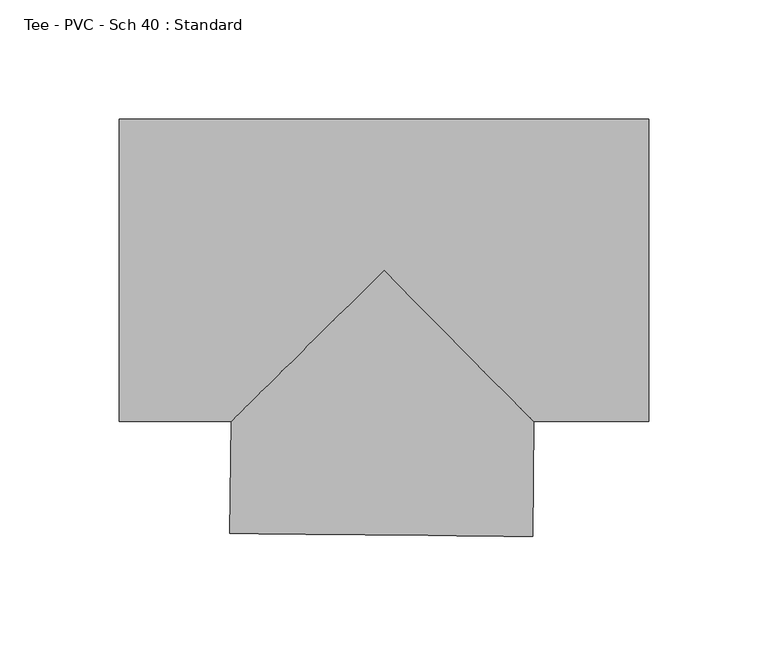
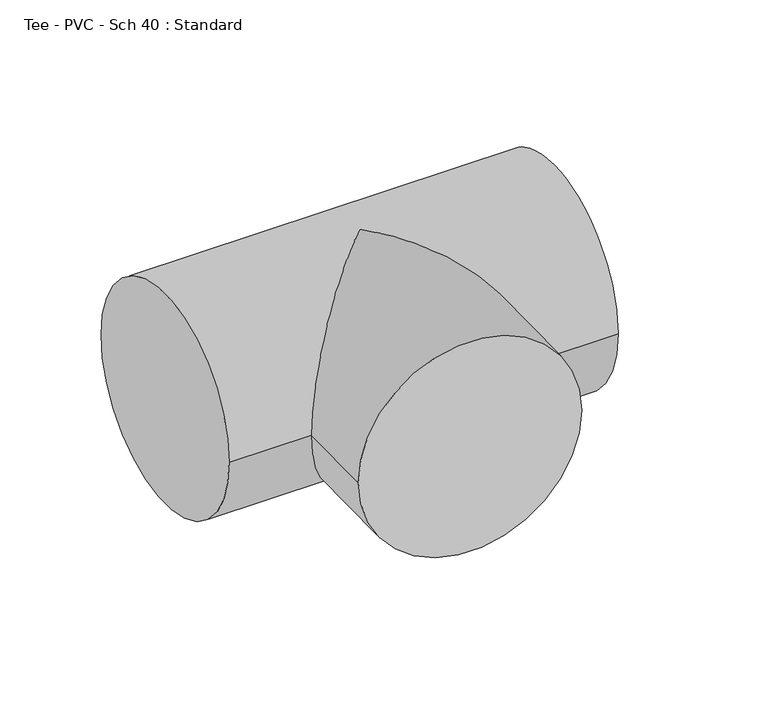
"""IFC4 building model written with IfcOpenShell, lengths in millimetres: pipe fitting geometry, Tee - PVC - Sch 40 : Standard."""

from ifc_helpers import new_model, si_unit, frame, origin, place, context, project, spatial, circle_curve, ellipse_curve, source, transform, mapped, element, save
from ifc_brep_helpers import plane_surface, cylinder_surface, advanced_brep


def tee_pvc_sch_40_standard_9cddf13a(model_context):
    return source(origin(), model_context, "Body", "AdvancedBrep", [
        advanced_brep(
        [(-111.125, -63.5, 0.0), (-111.125, 63.5, 0.0), (111.125, -63.5, 0.0), (111.125, 63.5, 0.0), (-64.1649033, -63.5, 0.0), (0.0, 0.0, 63.5), (62.8419867, -63.5, 0.0), (0.0, 0.0, -63.5), (-64.6540445, -110.4575491, 0.0), (62.3390659, -111.780394, 0.0)],
        [
            (0, 1, circle_curve(frame((-111.125, 0.0, 0.0), z_axis=(-1.0, 0.0, 0.0), x_axis=(0.0, 1.0, 0.0)), 63.5)),
            (1, 0, circle_curve(frame((-111.125, 0.0, 0.0), z_axis=(-1.0, 0.0, 0.0), x_axis=(0.0, 1.0, 0.0)), 63.5)),
            (2, 3, circle_curve(frame((111.125, 0.0, 0.0), z_axis=(1.0, 0.0, 0.0), x_axis=(0.0, 1.0, 0.0)), 63.5)),
            (3, 2, circle_curve(frame((111.125, 0.0, 0.0), z_axis=(1.0, 0.0, 0.0), x_axis=(0.0, 1.0, 0.0)), 63.5)),
            (0, 4),
            (4, 5, ellipse_curve(frame((0.0, 0.0, 0.0), z_axis=(-0.7034144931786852, 0.7107798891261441, 0.0), x_axis=(-0.7107798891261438, -0.7034144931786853, 0.0)), 90.2739432, 63.5)),
            (5, 6, ellipse_curve(frame((0.0, 0.0, 0.0), z_axis=(0.7107798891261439, 0.7034144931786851, 0.0), x_axis=(-0.7034144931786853, 0.7107798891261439, 0.0)), 89.3384872, 63.5)),
            (6, 2),
            (3, 1),
            (6, 7, ellipse_curve(frame((0.0, 0.0, 0.0), z_axis=(0.7107798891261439, 0.7034144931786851, 0.0), x_axis=(-0.7034144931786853, 0.7107798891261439, 0.0)), 89.3384872, 63.5)),
            (7, 4, ellipse_curve(frame((0.0, 0.0, 0.0), z_axis=(-0.7034144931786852, 0.7107798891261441, 0.0), x_axis=(-0.7107798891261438, -0.7034144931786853, 0.0)), 90.2739432, 63.5)),
            (8, 9, circle_curve(frame((-1.1574893, -111.1189716, 0.0), z_axis=(-0.01041610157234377, -0.9999457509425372, 0.0), x_axis=(0.9999457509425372, -0.01041610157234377, 0.0)), 63.5)),
            (9, 8, circle_curve(frame((-1.1574893, -111.1189716, 0.0), z_axis=(-0.01041610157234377, -0.9999457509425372, 0.0), x_axis=(0.9999457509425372, -0.01041610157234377, 0.0)), 63.5)),
            (9, 6),
            (4, 8),
        ],
        [
            plane_surface(frame((-111.125, 0.0, 0.0), z_axis=(-1.0, 0.0, 0.0), x_axis=(0.0, 0.0, 1.0))),
            plane_surface(frame((111.125, 0.0, 0.0), z_axis=(1.0, 0.0, 0.0), x_axis=(0.0, 0.0, 1.0))),
            cylinder_surface(frame((-111.125, 0.0, 0.0), z_axis=(-1.0, 0.0, 0.0), x_axis=(0.0, 1.0, 0.0)), 63.5),
            plane_surface(frame((-1.1574893, -111.1189716, 0.0), z_axis=(-0.010416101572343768, -0.9999457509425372, 0.0), x_axis=(0.0, 0.0, 1.0))),
            cylinder_surface(frame((0.0, 0.0, 0.0), z_axis=(0.01041610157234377, 0.9999457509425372, 0.0), x_axis=(0.9999457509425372, -0.01041610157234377, 0.0)), 63.5),
        ],
        [
            (0, [[1, 2]]),
            (1, [[3, 4]]),
            (2, [[-1, 5, 6, 7, 8, -4, 9]]),
            (2, [[-2, -9, -3, -8, 10, 11, -5]]),
            (3, [[12, 13]]),
            (4, [[-13, 14, -7, -6, 15]]),
            (4, [[-12, -15, -11, -10, -14]]),
        ],
    ),
    ])


if __name__ == "__main__":
    model = new_model("IFC4")
    model_context = context("Model", 3, world=origin())
    ifc_project = project(units=[si_unit("LENGTHUNIT", "METRE", prefix="MILLI")], contexts=[model_context])
    site = spatial("IfcSite", under=ifc_project)
    building = spatial("IfcBuilding", under=site)
    placement = place(None, origin())
    tee_pvc_sch_40_standard_shape = tee_pvc_sch_40_standard_9cddf13a(model_context)
    element("IfcPipeFitting", 1, ObjectType="Tee - PVC - Sch 40 : Standard", at=placement, inside=building, context=model_context, shape_type="MappedRepresentation", body=[
        mapped(tee_pvc_sch_40_standard_shape, transform((0.0, 0.0, 0.0), x_axis=(1.0, 0.0, 0.0), y_axis=(0.0, 1.0, 0.0), z_axis=(0.0, 0.0, 1.0))),
    ])
    save(model, "model.ifc")
